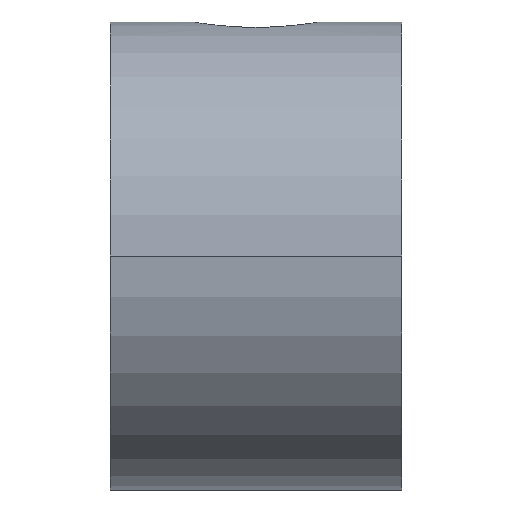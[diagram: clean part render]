
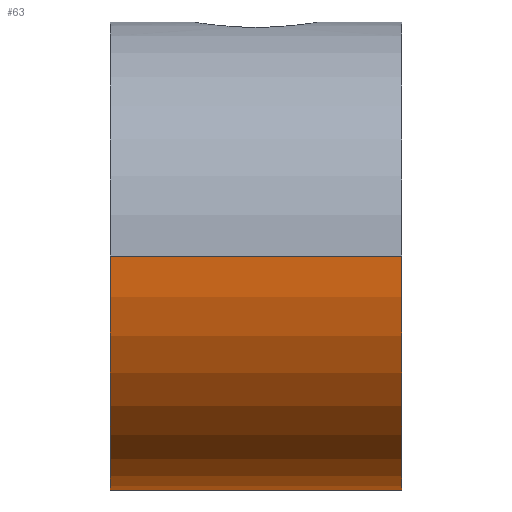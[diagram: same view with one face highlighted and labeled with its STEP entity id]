
A CAD part, left-side view. The second image highlights one B-rep face of the part: STEP entity #63.
In plain terms, the highlighted cylindrical face has radius 22.5 mm (diameter 45 mm), a partial arc.
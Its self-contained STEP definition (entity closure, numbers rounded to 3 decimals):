
#21 = EDGE_CURVE('',#22,#24,#26,.T.);
#22 = VERTEX_POINT('',#23);
#23 = CARTESIAN_POINT('',(22.5,-14.,0.));
#24 = VERTEX_POINT('',#25);
#25 = CARTESIAN_POINT('',(-22.5,-14.,0.));
#26 = CIRCLE('',#27,22.5);
#27 = AXIS2_PLACEMENT_3D('',#28,#29,#30);
#28 = CARTESIAN_POINT('',(0.,-14.,0.));
#29 = DIRECTION('',(-0.,1.,0.));
#30 = DIRECTION('',(1.,0.,0.));
#63 = ADVANCED_FACE('',(#64),#90,.T.);
#64 = FACE_BOUND('',#65,.T.);
#65 = EDGE_LOOP('',(#66,#74,#83,#89));
#66 = ORIENTED_EDGE('',*,*,#67,.T.);
#67 = EDGE_CURVE('',#24,#68,#70,.T.);
#68 = VERTEX_POINT('',#69);
#69 = CARTESIAN_POINT('',(-22.5,14.,0.));
#70 = LINE('',#71,#72);
#71 = CARTESIAN_POINT('',(-22.5,-14.,0.));
#72 = VECTOR('',#73,1.);
#73 = DIRECTION('',(0.,1.,0.));
#74 = ORIENTED_EDGE('',*,*,#75,.F.);
#75 = EDGE_CURVE('',#76,#68,#78,.T.);
#76 = VERTEX_POINT('',#77);
#77 = CARTESIAN_POINT('',(22.5,14.,0.));
#78 = CIRCLE('',#79,22.5);
#79 = AXIS2_PLACEMENT_3D('',#80,#81,#82);
#80 = CARTESIAN_POINT('',(0.,14.,0.));
#81 = DIRECTION('',(-0.,1.,0.));
#82 = DIRECTION('',(1.,0.,0.));
#83 = ORIENTED_EDGE('',*,*,#84,.F.);
#84 = EDGE_CURVE('',#22,#76,#85,.T.);
#85 = LINE('',#86,#87);
#86 = CARTESIAN_POINT('',(22.5,-14.,0.));
#87 = VECTOR('',#88,1.);
#88 = DIRECTION('',(0.,1.,0.));
#89 = ORIENTED_EDGE('',*,*,#21,.T.);
#90 = CYLINDRICAL_SURFACE('',#91,22.5);
#91 = AXIS2_PLACEMENT_3D('',#92,#93,#94);
#92 = CARTESIAN_POINT('',(0.,-14.,0.));
#93 = DIRECTION('',(0.,1.,0.));
#94 = DIRECTION('',(1.,0.,0.));
